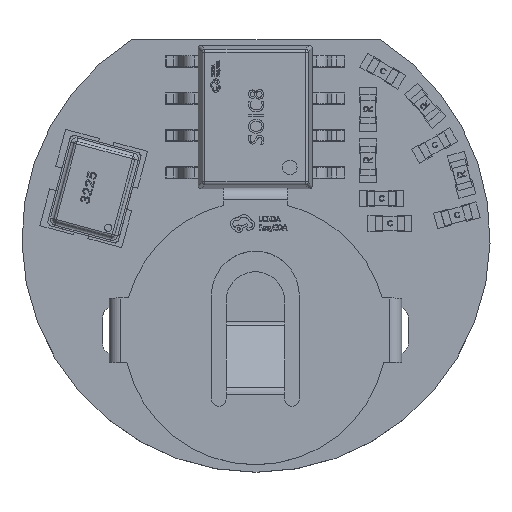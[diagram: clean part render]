
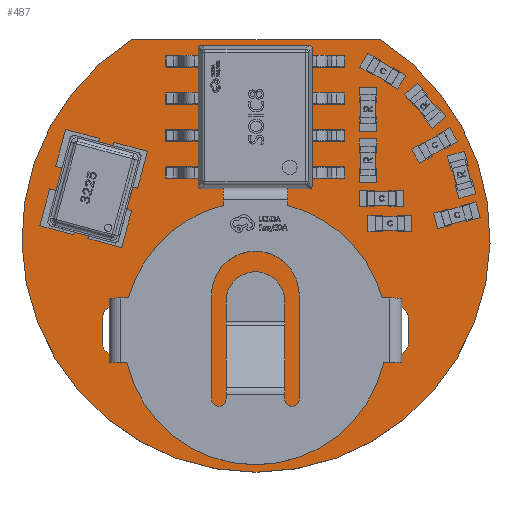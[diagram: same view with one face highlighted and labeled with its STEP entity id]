
A CAD part, top view. The second image highlights one B-rep face of the part: STEP entity #487.
In plain terms, the highlighted planar face has unit normal (0, 0, 1).
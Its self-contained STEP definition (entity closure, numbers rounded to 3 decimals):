
#116 = VERTEX_POINT('',#117);
#117 = CARTESIAN_POINT('',(33.333,-6.78,1.691));
#123 = EDGE_CURVE('',#116,#124,#126,.T.);
#124 = VERTEX_POINT('',#125);
#125 = CARTESIAN_POINT('',(41.812,-6.78,1.691));
#126 = CIRCLE('',#127,8.);
#127 = AXIS2_PLACEMENT_3D('',#128,#129,#130);
#128 = CARTESIAN_POINT('',(37.573,-13.565,1.691));
#129 = DIRECTION('',(0.,0.,1.));
#130 = DIRECTION('',(-0.53,0.848,-0.));
#156 = EDGE_CURVE('',#124,#116,#157,.T.);
#157 = LINE('',#158,#159);
#158 = CARTESIAN_POINT('',(41.812,-6.78,1.691));
#159 = VECTOR('',#160,1.);
#160 = DIRECTION('',(-1.,0.,0.));
#180 = VERTEX_POINT('',#181);
#181 = CARTESIAN_POINT('',(32.325,-17.176,1.691));
#187 = EDGE_CURVE('',#180,#188,#190,.T.);
#188 = VERTEX_POINT('',#189);
#189 = CARTESIAN_POINT('',(33.025,-17.176,1.691));
#190 = CIRCLE('',#191,0.35);
#191 = AXIS2_PLACEMENT_3D('',#192,#193,#194);
#192 = CARTESIAN_POINT('',(32.675,-17.176,1.691));
#193 = DIRECTION('',(0.,0.,1.));
#194 = DIRECTION('',(-1.,0.,0.));
#222 = VERTEX_POINT('',#223);
#223 = CARTESIAN_POINT('',(32.325,-16.276,1.691));
#229 = EDGE_CURVE('',#222,#180,#230,.T.);
#230 = LINE('',#231,#232);
#231 = CARTESIAN_POINT('',(32.325,-16.276,1.691));
#232 = VECTOR('',#233,1.);
#233 = DIRECTION('',(0.,-1.,0.));
#253 = VERTEX_POINT('',#254);
#254 = CARTESIAN_POINT('',(33.025,-16.276,1.691));
#260 = EDGE_CURVE('',#253,#222,#261,.T.);
#261 = CIRCLE('',#262,0.35);
#262 = AXIS2_PLACEMENT_3D('',#263,#264,#265);
#263 = CARTESIAN_POINT('',(32.675,-16.276,1.691));
#264 = DIRECTION('',(0.,0.,1.));
#265 = DIRECTION('',(1.,0.,-0.));
#284 = EDGE_CURVE('',#188,#253,#285,.T.);
#285 = LINE('',#286,#287);
#286 = CARTESIAN_POINT('',(33.025,-17.176,1.691));
#287 = VECTOR('',#288,1.);
#288 = DIRECTION('',(0.,1.,0.));
#308 = VERTEX_POINT('',#309);
#309 = CARTESIAN_POINT('',(42.075,-17.175,1.691));
#315 = EDGE_CURVE('',#308,#316,#318,.T.);
#316 = VERTEX_POINT('',#317);
#317 = CARTESIAN_POINT('',(42.775,-17.175,1.691));
#318 = CIRCLE('',#319,0.35);
#319 = AXIS2_PLACEMENT_3D('',#320,#321,#322);
#320 = CARTESIAN_POINT('',(42.425,-17.175,1.691));
#321 = DIRECTION('',(0.,0.,1.));
#322 = DIRECTION('',(-1.,0.,0.));
#350 = VERTEX_POINT('',#351);
#351 = CARTESIAN_POINT('',(42.075,-16.275,1.691));
#357 = EDGE_CURVE('',#350,#308,#358,.T.);
#358 = LINE('',#359,#360);
#359 = CARTESIAN_POINT('',(42.075,-16.275,1.691));
#360 = VECTOR('',#361,1.);
#361 = DIRECTION('',(0.,-1.,0.));
#381 = VERTEX_POINT('',#382);
#382 = CARTESIAN_POINT('',(42.775,-16.275,1.691));
#388 = EDGE_CURVE('',#381,#350,#389,.T.);
#389 = CIRCLE('',#390,0.35);
#390 = AXIS2_PLACEMENT_3D('',#391,#392,#393);
#391 = CARTESIAN_POINT('',(42.425,-16.275,1.691));
#392 = DIRECTION('',(0.,0.,1.));
#393 = DIRECTION('',(1.,0.,-0.));
#412 = EDGE_CURVE('',#316,#381,#413,.T.);
#413 = LINE('',#414,#415);
#414 = CARTESIAN_POINT('',(42.775,-17.175,1.691));
#415 = VECTOR('',#416,1.);
#416 = DIRECTION('',(0.,1.,0.));
#436 = VERTEX_POINT('',#437);
#437 = CARTESIAN_POINT('',(38.032,-7.827,1.691));
#443 = EDGE_CURVE('',#436,#436,#444,.T.);
#444 = CIRCLE('',#445,0.45);
#445 = AXIS2_PLACEMENT_3D('',#446,#447,#448);
#446 = CARTESIAN_POINT('',(37.582,-7.827,1.691));
#447 = DIRECTION('',(0.,0.,1.));
#448 = DIRECTION('',(1.,0.,-0.));
#487 = ADVANCED_FACE('',(#488,#492,#498,#504),#507,.T.);
#488 = FACE_BOUND('',#489,.T.);
#489 = EDGE_LOOP('',(#490,#491));
#490 = ORIENTED_EDGE('',*,*,#123,.T.);
#491 = ORIENTED_EDGE('',*,*,#156,.T.);
#492 = FACE_BOUND('',#493,.T.);
#493 = EDGE_LOOP('',(#494,#495,#496,#497));
#494 = ORIENTED_EDGE('',*,*,#187,.F.);
#495 = ORIENTED_EDGE('',*,*,#229,.F.);
#496 = ORIENTED_EDGE('',*,*,#260,.F.);
#497 = ORIENTED_EDGE('',*,*,#284,.F.);
#498 = FACE_BOUND('',#499,.T.);
#499 = EDGE_LOOP('',(#500,#501,#502,#503));
#500 = ORIENTED_EDGE('',*,*,#315,.F.);
#501 = ORIENTED_EDGE('',*,*,#357,.F.);
#502 = ORIENTED_EDGE('',*,*,#388,.F.);
#503 = ORIENTED_EDGE('',*,*,#412,.F.);
#504 = FACE_BOUND('',#505,.T.);
#505 = EDGE_LOOP('',(#506));
#506 = ORIENTED_EDGE('',*,*,#443,.F.);
#507 = PLANE('',#508);
#508 = AXIS2_PLACEMENT_3D('',#509,#510,#511);
#509 = CARTESIAN_POINT('',(37.573,-13.268,1.691));
#510 = DIRECTION('',(0.,0.,1.));
#511 = DIRECTION('',(1.,0.,-0.));
